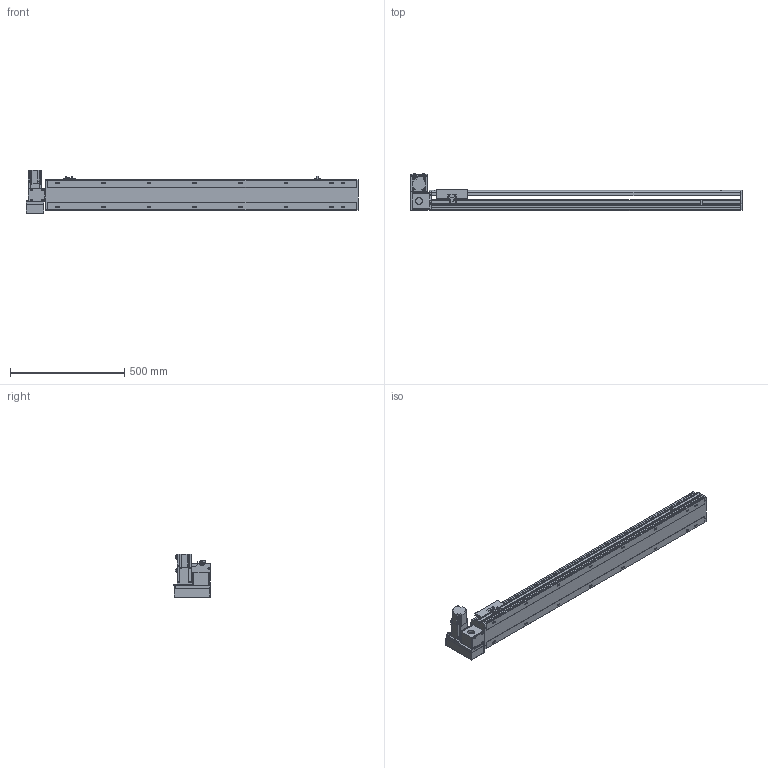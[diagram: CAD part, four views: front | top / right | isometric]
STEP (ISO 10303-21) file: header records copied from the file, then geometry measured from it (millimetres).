
FILE_DESCRIPTION( ( 'STEP AP214' ), '1' );
FILE_NAME( 'x:/temp/worker_6/temp/exporttempdir_5396_129_3roKB/format_0/PBS140S-P40-S1100-LU-T40-C1-N(0).stp', '2022-06-09T00:34:16', ( 'License CC BY-ND 4.0' ), ( 'CADENAS' ), ' ', 'PARTsolutions', ' ' );
FILE_SCHEMA( ( 'AUTOMOTIVE_DESIGN { 1 0 10303 214 1 1 1 1 }' ) );
Length unit declared in the file: millimetre
Products named in the file (7): PBS140S-P40-S1100-LU-T40-C1-N(0); _PBS140S-S1100()_body; _PBS140ST-LU_motors; _T40-p1; _PBS140S_sliser; _PBS140S_plant; _PBS140S_sensor
Assembly tree (8 placements, depth 2):
  PBS140S-P40-S1100-LU-T40-C1-N(0)
    _PBS140S-S1100()_body
    _PBS140ST-LU_motors
    _T40-p1
    _PBS140S_sliser
    _PBS140S_plant
    _PBS140S_sensor  x3
Bounding box: 1454 x 162.5 x 189.7 mm (x, y, z)
Volume: 7493259.3 mm3; surface area: 1294256.9 mm2
Topology: 8 solids, 8 shells, 1099 faces, 2911 edges, 1905 vertices
Faces by surface type: plane 702, cylinder 345, cone 42, sphere 8, torus 2
Full cylindrical faces by diameter (mm): 3.242 x4, 4 x2, 4.134 x4, 4.4 x8, 4.5 x2, 4.8 x4, 4.917 x24, 5.5 x7, 6 x2, 7 x18, 7.5 x8, 8 x12, 8.5 x4, 10.5 x16, 14 x1, 30 x2, 50 x2
Entity records: 40336 total; most frequent: CARTESIAN_POINT 6406, DIRECTION 5348, ORIENTED_EDGE 5062, EDGE_CURVE 2531, AXIS2_PLACEMENT_3D 1859, VERTEX_POINT 1753, LINE 1630, VECTOR 1630
